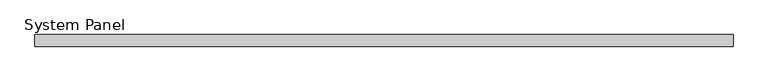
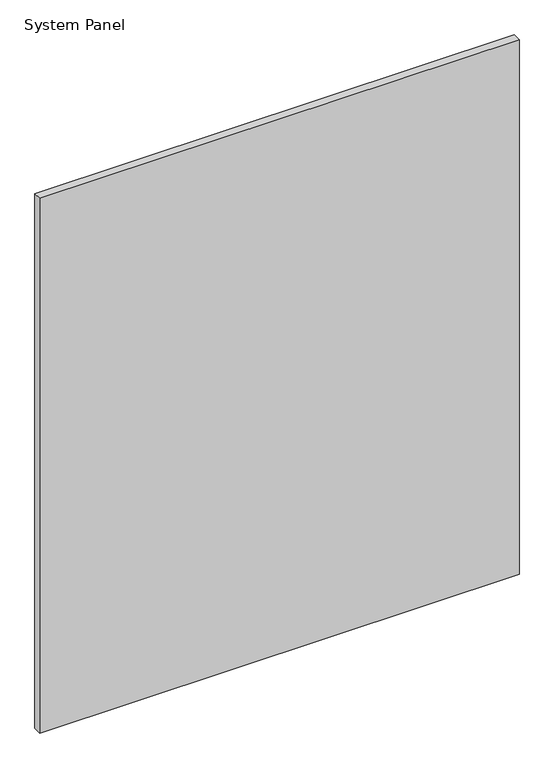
"""IFC4 building model written with IfcOpenShell, lengths in millimetres: plate geometry, System Panel : Panel_Glazed_Generic Showcase_30mm."""

from ifc_helpers import new_model, si_unit, origin, origin_with_axes, place, context, project, spatial, polyline, outline, extrude, source, transform, mapped, element, save


def system_panel_92fbf9bb(model_context):
    return source(origin(), model_context, "Body", "SweptSolid", [
        extrude(outline(polyline([(869.239998, -30.0), (-869.239998, -30.0), (-869.239998, 0.0), (869.239998, 0.0), (869.239998, -30.0)])), origin_with_axes(), (0.0, 0.0, 1.0), 2050.0),
    ])


if __name__ == "__main__":
    model = new_model("IFC4")
    model_context = context("Model", 3, world=origin())
    ifc_project = project(units=[si_unit("LENGTHUNIT", "METRE", prefix="MILLI")], contexts=[model_context])
    site = spatial("IfcSite", under=ifc_project)
    building = spatial("IfcBuilding", under=site)
    placement = place(None, origin())
    system_panel_shape = system_panel_92fbf9bb(model_context)
    element("IfcPlate", 1, ObjectType="System Panel : Panel_Glazed_Generic Showcase_30mm", at=placement, inside=building, context=model_context, shape_type="MappedRepresentation", body=[
        mapped(system_panel_shape, transform((0.0, 0.0, 0.0), x_axis=(1.0, 0.0, 0.0), y_axis=(0.0, 1.0, 0.0), z_axis=(0.0, 0.0, 1.0))),
    ])
    save(model, "model.ifc")
